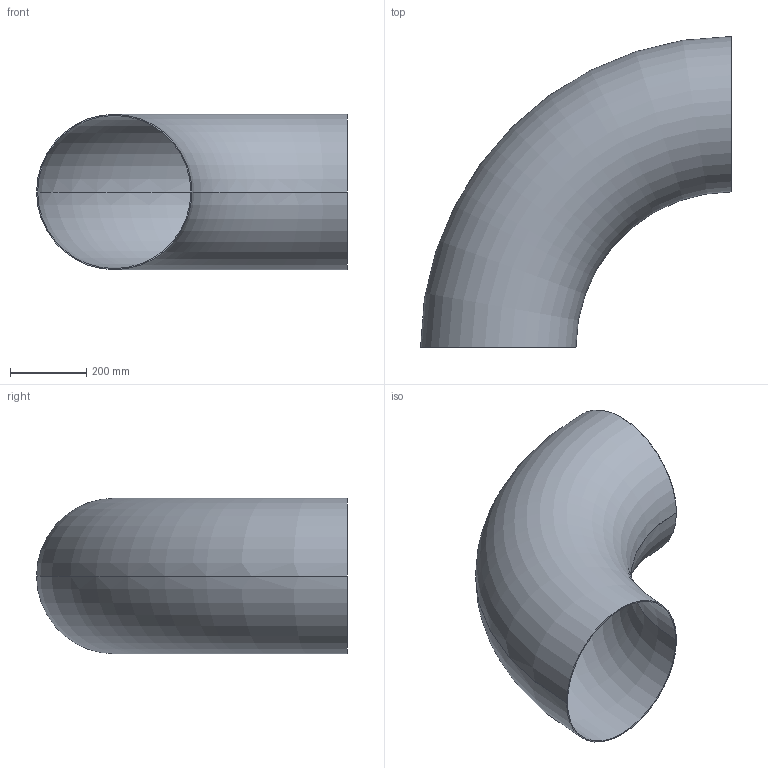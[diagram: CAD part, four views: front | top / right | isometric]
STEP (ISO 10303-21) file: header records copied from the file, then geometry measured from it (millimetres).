
FILE_DESCRIPTION (( 'STEP AP203' ), '1' );
FILE_NAME ('OT200-400-406_4x2_9_OSTP.step', '2020-12-16T03:09:35', ( '' ), ( '' ), 'SwSTEP 2.0', 'SolidWorks 2014', '' );
FILE_SCHEMA (( 'CONFIG_CONTROL_DESIGN' ));
Length unit declared in the file: millimetre
Products named in the file (1): OT200-400-406_4x2_9_OSTP
Bounding box: 813.2 x 813.2 x 406.4 mm (x, y, z)
Volume: 3522419.9 mm3; surface area: 2436607.3 mm2
Topology: 1 solids, 1 shells, 6 faces, 12 edges, 8 vertices
Faces by surface type: torus 4, plane 2
Entity records: 249 total; most frequent: DIRECTION 38, CARTESIAN_POINT 27, ORIENTED_EDGE 24, AXIS2_PLACEMENT_3D 19, CIRCLE 12, EDGE_CURVE 12, EDGE_LOOP 8, PERSON_AND_ORGANIZATION 8
